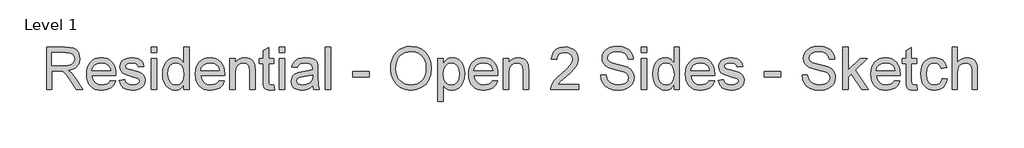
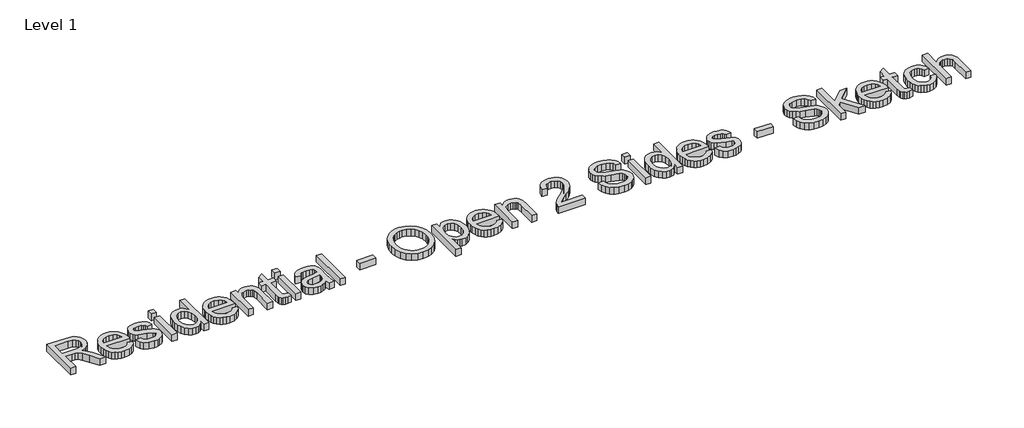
# One storey, part 22 of 26: 1 proxy.
"""IFC4 building model written with IfcOpenShell, lengths in millimetres."""

from ifc_helpers import new_model, si_unit, origin, origin_with_axes, place, context, project, spatial, polyline, outline, extrude, element, save

model = new_model("IFC4")

# Units and contexts
model_context = context("Model", 3, world=origin())
ifc_project = project(units=[si_unit("LENGTHUNIT", "METRE", prefix="MILLI")], contexts=[model_context])

# Site, building, storey
site = spatial("IfcSite", under=ifc_project)
building = spatial("IfcBuilding", under=site)
storey = spatial("IfcBuildingStorey", under=building, Name="Level 1", Elevation=0.0)

# Proxy
placement = place(None, origin())
element("IfcBuildingElementProxy", 1, Name="12\" Arial", ObjectType="12\" Arial", at=placement, inside=storey, context=model_context, shape_type="SweptSolid", body=[
    extrude(outline(polyline([(-4715.4981187, 3380.8767877), (-4715.4981187, 3680.987557), (-4586.1779264, 3680.987557), (-4551.420835, 3678.9634945), (-4526.1337918, 3672.891307), (-4507.6516283, 3661.6811146), (-4493.3091764, 3644.2430377), (-4484.1047293, 3622.619456), (-4481.0365802, 3598.8527493), (-4486.1196331, 3569.2886146), (-4501.3687918, 3544.780057), (-4512.9201439, 3534.7925449), (-4527.2419889, 3526.8107781), (-4564.1971571, 3516.86448), (-4542.875811, 3500.8185185), (-4512.4690802, 3462.2056339), (-4462.4261956, 3380.8767877), (-4506.0213879, 3380.8767877), (-4545.0738879, 3443.0823646), (-4573.2825418, 3484.2596723), (-4593.1018687, 3503.7126531), (-4610.9429264, 3510.8564031), (-4632.7038879, 3512.1752493), (-4677.9842725, 3512.1752493), (-4677.9842725, 3380.8767877), (-4715.4981187, 3380.8767877)]), holes=[polyline([(-4677.9842725, 3549.6890954), (-4594.0177341, 3549.6890954), (-4569.9029985, 3551.0171002), (-4551.1918687, 3555.0011146), (-4537.1058591, 3561.9067396), (-4526.8664841, 3571.9995762), (-4520.6294408, 3584.2080618), (-4518.5504264, 3597.4606339), (-4522.5161235, 3615.7596243), (-4534.4132148, 3630.505057), (-4554.8828062, 3640.2315473), (-4584.5660033, 3643.4737108), (-4677.9842725, 3643.4737108), (-4677.9842725, 3549.6890954)])]), origin_with_axes(), (0.0, 0.0, 1.0), 50.8),
    extrude(outline(polyline([(-4265.7715802, 3446.5260185), (-4228.9904264, 3441.8367877), (-4242.2429985, 3414.1227012), (-4263.3903302, 3393.4058262), (-4291.9561716, 3380.4921243), (-4327.4642725, 3376.187557), (-4350.7409913, 3378.044474), (-4371.4807629, 3383.6152252), (-4389.6835874, 3392.8998106), (-4405.3494648, 3405.89823), (-4417.9471932, 3422.2487168), (-4426.9455706, 3441.5895041), (-4432.344597, 3463.9205918), (-4434.1442725, 3489.24198), (-4432.3262797, 3515.4219921), (-4426.8723014, 3538.4972204), (-4417.7823374, 3558.4676651), (-4405.0563879, 3575.3333262), (-4389.4317244, 3588.7324368), (-4371.6456187, 3598.30323), (-4351.6980706, 3604.045706), (-4329.5890802, 3605.9598646), (-4308.1921752, 3604.0502853), (-4288.8422293, 3598.3215473), (-4271.5392425, 3588.7736507), (-4256.2832148, 3575.4065954), (-4243.8297353, 3558.577569), (-4234.9343927, 3538.6437589), (-4229.5971872, 3515.6051651), (-4227.8181187, 3489.4617877), (-4228.0379264, 3479.3506339), (-4396.6304264, 3479.3506339), (-4390.1369408, 3451.2702012), (-4375.0526379, 3430.6265954), (-4353.2825177, 3417.9327012), (-4326.7315802, 3413.7014031), (-4306.7657148, 3415.661355), (-4289.9504264, 3421.5412108), (-4276.2857148, 3431.7073166), (-4265.7715802, 3446.5260185)]), holes=[polyline([(-4396.6304264, 3516.86448), (-4265.3319648, 3516.86448), (-4270.4058591, 3536.683807), (-4280.3521571, 3550.8614031), (-4302.2230225, 3564.0498646), (-4329.7356187, 3568.4460185), (-4355.0226619, 3564.9382541), (-4375.9318687, 3554.4149608), (-4390.4666523, 3538.0118118), (-4396.6304264, 3516.86448)])]), origin_with_axes(), (0.0, 0.0, 1.0), 50.8),
    extrude(outline(polyline([(-4204.3719648, 3446.5260185), (-4166.8581187, 3451.2152493), (-4160.9416283, 3435.1692877), (-4149.493311, 3423.3729416), (-4132.4398975, 3416.1192877), (-4109.7081187, 3413.7014031), (-4087.2510994, 3415.9177973), (-4071.4615802, 3422.56698), (-4062.1197533, 3432.2018839), (-4059.005811, 3443.3754416), (-4062.1380706, 3452.9370762), (-4071.5348494, 3460.2273646), (-4110.1477341, 3470.9246723), (-4166.638311, 3489.2786146), (-4180.9349696, 3498.5013791), (-4191.2934071, 3510.7098646), (-4197.5854023, 3525.1255858), (-4199.6827341, 3540.970057), (-4197.9975418, 3555.5048406), (-4192.9419648, 3568.9222685), (-4184.973936, 3580.6911387), (-4174.5513879, 3590.2802493), (-4150.7022533, 3601.3805377), (-4118.4271571, 3605.9598646), (-4094.010186, 3604.1189752), (-4072.7804264, 3598.596307), (-4055.7086956, 3589.9322204), (-4043.765811, 3578.6670762), (-4035.8527341, 3563.9674368), (-4030.8704264, 3544.9998646), (-4068.3842725, 3540.3106339), (-4073.1192966, 3552.1161387), (-4082.4885994, 3561.0091916), (-4096.5837677, 3566.5868118), (-4115.4963879, 3568.4460185), (-4137.0375418, 3566.6692396), (-4151.398311, 3561.3389031), (-4159.4762437, 3553.6456339), (-4162.1688879, 3544.780057), (-4157.6994648, 3533.8629416), (-4143.7050418, 3525.5835185), (-4111.393311, 3517.5971723), (-4056.3314841, 3499.9392877), (-4041.7875418, 3491.4950089), (-4030.7605225, 3479.9367877), (-4023.8091043, 3465.2279896), (-4021.4919648, 3447.33198), (-4024.212085, 3428.8314993), (-4032.3724456, 3411.430057), (-4045.6616523, 3396.4922925), (-4063.768311, 3385.3828454), (-4085.6391764, 3378.4863791), (-4110.2210033, 3376.187557), (-4148.0462437, 3380.6203454), (-4175.6504264, 3393.9187108), (-4194.0776379, 3415.9361146), (-4204.3719648, 3446.5260185)])), origin_with_axes(), (0.0, 0.0, 1.0), 50.8),
    extrude(outline(polyline([(-3979.2888879, 3380.8767877), (-3979.2888879, 3601.2706339), (-3941.7750418, 3601.2706339), (-3941.7750418, 3380.8767877), (-3979.2888879, 3380.8767877)])), origin_with_axes(), (0.0, 0.0, 1.0), 50.8),
    extrude(outline(polyline([(-3979.2888879, 3643.4737108), (-3979.2888879, 3680.987557), (-3941.7750418, 3680.987557), (-3941.7750418, 3643.4737108), (-3979.2888879, 3643.4737108)])), origin_with_axes(), (0.0, 0.0, 1.0), 50.8),
    extrude(outline(polyline([(-3749.5165802, 3380.8767877), (-3749.5165802, 3416.2658262), (-3760.7405105, 3398.7315834), (-3774.3365321, 3386.2071243), (-3790.3046451, 3378.6924488), (-3808.6448494, 3376.187557), (-3832.8969648, 3379.8143839), (-3855.0975418, 3390.6948646), (-3873.8910994, 3408.068831), (-3887.9221571, 3431.1761146), (-3896.6595129, 3459.0825329), (-3899.5719648, 3490.8539031), (-3896.8884793, 3522.2314512), (-3888.8380225, 3550.5683262), (-3875.4297533, 3574.252605), (-3856.6728302, 3591.6723646), (-3833.9868446, 3602.3879896), (-3808.7913879, 3605.9598646), (-3790.4374456, 3603.4046002), (-3774.208311, 3595.738807), (-3760.4520129, 3583.9882541), (-3749.5165802, 3569.1787108), (-3749.5165802, 3680.987557), (-3712.0027341, 3680.987557), (-3712.0027341, 3380.8767877), (-3749.5165802, 3380.8767877)]), holes=[polyline([(-3862.0581187, 3491.0004416), (-3857.8268206, 3457.0676291), (-3845.1329264, 3432.9345762), (-3826.6873975, 3418.5096964), (-3805.2011956, 3413.7014031), (-3783.7241523, 3418.2898887), (-3765.7457148, 3432.0553454), (-3753.5738639, 3455.2542156), (-3749.5165802, 3488.1429416), (-3753.6471331, 3524.0998166), (-3766.0387918, 3549.0296723), (-3784.4751619, 3563.591932), (-3806.7398494, 3568.4460185), (-3828.4458591, 3563.7842637), (-3846.2319648, 3549.7989993), (-3858.1015802, 3525.7758502), (-3862.0581187, 3491.0004416)])]), origin_with_axes(), (0.0, 0.0, 1.0), 50.8),
    extrude(outline(polyline([(-3501.4269648, 3446.5260185), (-3464.645811, 3441.8367877), (-3477.8983831, 3414.1227012), (-3499.0457148, 3393.4058262), (-3527.6115562, 3380.4921243), (-3563.1196571, 3376.187557), (-3586.3963759, 3378.044474), (-3607.1361475, 3383.6152252), (-3625.338972, 3392.8998106), (-3641.0048494, 3405.89823), (-3653.6025778, 3422.2487168), (-3662.6009552, 3441.5895041), (-3667.9999817, 3463.9205918), (-3669.7996571, 3489.24198), (-3667.9816643, 3515.4219921), (-3662.527686, 3538.4972204), (-3653.437722, 3558.4676651), (-3640.7117725, 3575.3333262), (-3625.0871091, 3588.7324368), (-3607.3010033, 3598.30323), (-3587.3534552, 3604.045706), (-3565.2444648, 3605.9598646), (-3543.8475598, 3604.0502853), (-3524.4976139, 3598.3215473), (-3507.1946271, 3588.7736507), (-3491.9385994, 3575.4065954), (-3479.4851199, 3558.577569), (-3470.5897773, 3538.6437589), (-3465.2525718, 3515.6051651), (-3463.4735033, 3489.4617877), (-3463.693311, 3479.3506339), (-3632.285811, 3479.3506339), (-3625.7923254, 3451.2702012), (-3610.7080225, 3430.6265954), (-3588.9379023, 3417.9327012), (-3562.3869648, 3413.7014031), (-3542.4210994, 3415.661355), (-3525.605811, 3421.5412108), (-3511.9410994, 3431.7073166), (-3501.4269648, 3446.5260185)]), holes=[polyline([(-3632.285811, 3516.86448), (-3500.9873494, 3516.86448), (-3506.0612437, 3536.683807), (-3516.0075418, 3550.8614031), (-3537.8784071, 3564.0498646), (-3565.3910033, 3568.4460185), (-3590.6780466, 3564.9382541), (-3611.5872533, 3554.4149608), (-3626.1220369, 3538.0118118), (-3632.285811, 3516.86448)])]), origin_with_axes(), (0.0, 0.0, 1.0), 50.8),
    extrude(outline(polyline([(-3425.9596571, 3380.8767877), (-3425.9596571, 3601.2706339), (-3388.445811, 3601.2706339), (-3388.445811, 3570.497557), (-3375.4130466, 3586.0123166), (-3359.7609071, 3597.0942877), (-3341.4893927, 3603.7434704), (-3320.5985033, 3605.9598646), (-3302.1071812, 3604.1739271), (-3285.1728302, 3598.8161146), (-3271.050186, 3590.5550089), (-3260.9939841, 3580.0591916), (-3249.7471571, 3552.4733262), (-3247.7688879, 3516.205057), (-3247.7688879, 3380.8767877), (-3285.2827341, 3380.8767877), (-3285.2827341, 3511.14948), (-3289.6056187, 3544.3404416), (-3295.5862196, 3554.2226291), (-3304.8822533, 3561.8884223), (-3316.7976619, 3566.8066195), (-3330.6363879, 3568.4460185), (-3352.6079985, 3564.7642396), (-3371.3374456, 3553.7189031), (-3378.8223555, 3544.7022084), (-3384.1687196, 3532.3792396), (-3388.445811, 3497.81448), (-3388.445811, 3380.8767877), (-3425.9596571, 3380.8767877)])), origin_with_axes(), (0.0, 0.0, 1.0), 50.8),
    extrude(outline(polyline([(-3116.4704264, 3412.1627493), (-3111.7811956, 3379.7777493), (-3139.843311, 3376.187557), (-3157.8492244, 3377.7445281), (-3171.275811, 3382.4154416), (-3180.7641764, 3389.6141435), (-3186.9554264, 3398.75448), (-3190.3624456, 3414.4524127), (-3191.4981187, 3441.3239031), (-3191.4981187, 3563.7567877), (-3219.6335033, 3563.7567877), (-3219.6335033, 3601.2706339), (-3191.4981187, 3601.2706339), (-3191.4981187, 3654.8304416), (-3153.9842725, 3676.88448), (-3153.9842725, 3601.2706339), (-3116.4704264, 3601.2706339), (-3116.4704264, 3563.7567877), (-3153.9842725, 3563.7567877), (-3153.9842725, 3442.4229416), (-3152.0060033, 3423.0798646), (-3145.5949456, 3416.2291916), (-3132.8094648, 3413.7014031), (-3116.4704264, 3412.1627493)])), origin_with_axes(), (0.0, 0.0, 1.0), 50.8),
    extrude(outline(polyline([(-3078.9565802, 3380.8767877), (-3078.9565802, 3601.2706339), (-3041.4427341, 3601.2706339), (-3041.4427341, 3380.8767877), (-3078.9565802, 3380.8767877)])), origin_with_axes(), (0.0, 0.0, 1.0), 50.8),
    extrude(outline(polyline([(-3078.9565802, 3643.4737108), (-3078.9565802, 3680.987557), (-3041.4427341, 3680.987557), (-3041.4427341, 3643.4737108), (-3078.9565802, 3643.4737108)])), origin_with_axes(), (0.0, 0.0, 1.0), 50.8),
    extrude(outline(polyline([(-2844.4950418, 3409.0121723), (-2862.4185273, 3393.6439512), (-2880.8732148, 3383.5877493), (-2900.2804023, 3378.037605), (-2921.0613879, 3376.187557), (-2952.41146, 3380.6386627), (-2975.537061, 3393.99198), (-2989.797085, 3414.2692396), (-2994.5504264, 3439.4921723), (-2992.7553302, 3455.0435666), (-2987.3700418, 3469.1662108), (-2979.0631427, 3481.2556339), (-2968.5032148, 3490.7073646), (-2942.2361956, 3503.0165954), (-2909.7779264, 3508.6583262), (-2871.4214841, 3514.5931339), (-2844.7148494, 3521.5537108), (-2844.4950418, 3529.9064031), (-2847.0777821, 3546.6484223), (-2854.8260033, 3557.6021723), (-2872.1541764, 3565.735057), (-2896.2963879, 3568.4460185), (-2918.6435033, 3566.6417637), (-2934.2498494, 3561.2289993), (-2944.8922052, 3551.2185906), (-2952.3473494, 3535.6214031), (-2989.8611956, 3540.3106339), (-2983.3493927, 3560.8260185), (-2973.632061, 3576.9452493), (-2959.8024937, 3589.2727973), (-2940.9539841, 3598.4131339), (-2917.9016523, 3604.073182), (-2891.4606187, 3605.9598646), (-2866.1003062, 3604.2929896), (-2845.997061, 3599.2923646), (-2830.8394889, 3591.7731098), (-2820.3161956, 3582.5503454), (-2813.3373014, 3571.1478214), (-2808.8129264, 3557.0892877), (-2806.9811956, 3524.2646723), (-2806.9811956, 3477.5921723), (-2805.0761956, 3412.4191916), (-2797.6027341, 3380.8767877), (-2835.1165802, 3380.8767877), (-2844.4950418, 3409.0121723)]), holes=[polyline([(-2844.4950418, 3484.0398646), (-2905.0154264, 3472.5365954), (-2937.2905225, 3466.4552493), (-2951.9077341, 3456.5639031), (-2957.0365802, 3442.1298646), (-2954.2431908, 3430.9746243), (-2945.8630225, 3421.8342877), (-2932.0792485, 3415.7346243), (-2913.0750418, 3413.7014031), (-2892.9260033, 3415.9452733), (-2875.1215802, 3422.6768839), (-2860.6875418, 3432.595706), (-2850.6496571, 3444.4012108), (-2846.1985514, 3456.5639031), (-2844.7148494, 3473.4158262), (-2844.4950418, 3484.0398646)])]), origin_with_axes(), (0.0, 0.0, 1.0), 50.8),
    extrude(outline(polyline([(-2755.3996571, 3380.8767877), (-2755.3996571, 3680.987557), (-2717.885811, 3680.987557), (-2717.885811, 3380.8767877), (-2755.3996571, 3380.8767877)])), origin_with_axes(), (0.0, 0.0, 1.0), 50.8),
    extrude(outline(polyline([(-2563.1411956, 3469.9721723), (-2563.1411956, 3507.4860185), (-2445.9104264, 3507.4860185), (-2445.9104264, 3469.9721723), (-2563.1411956, 3469.9721723)])), origin_with_axes(), (0.0, 0.0, 1.0), 50.8),
    extrude(outline(polyline([(-2295.8550418, 3526.9756339), (-2293.3547293, 3562.1769199), (-2285.8537918, 3593.3392396), (-2273.3522293, 3620.462593), (-2255.8500418, 3643.54698), (-2234.3958951, 3661.9787709), (-2210.0384552, 3675.1443358), (-2182.777722, 3683.0436747), (-2152.6136956, 3685.6767877), (-2113.2498014, 3680.7311146), (-2077.9523494, 3665.8940954), (-2048.6446571, 3642.2098166), (-2027.2500418, 3610.7223646), (-2014.1714841, 3572.9520762), (-2009.8119648, 3530.4192877), (-2014.4004504, 3487.3186627), (-2028.1659071, 3449.0171723), (-2050.3481668, 3417.4747685), (-2080.187061, 3394.6514031), (-2115.1822773, 3380.8035185), (-2152.8335033, 3376.187557), (-2192.8018687, 3381.2889271), (-2228.300811, 3396.5930377), (-2257.5352341, 3420.716932), (-2278.7100418, 3452.2776531), (-2291.5687918, 3488.5917156), (-2295.8550418, 3526.9756339)]), holes=[polyline([(-2258.3411956, 3526.6092877), (-2256.4659612, 3501.7389632), (-2250.8402581, 3479.6620281), (-2241.4640862, 3460.3784824), (-2228.3374456, 3443.8883262), (-2212.3807809, 3430.6815473), (-2194.5145369, 3421.2481339), (-2174.7387136, 3415.5880858), (-2153.053311, 3413.7014031), (-2130.9969829, 3415.6064031), (-2110.9876139, 3421.3214031), (-2093.025204, 3430.8464031), (-2077.1097533, 3444.1814031), (-2064.0792785, 3461.0195882), (-2054.7717966, 3481.0541435), (-2049.1873074, 3504.285069), (-2047.325811, 3530.7123646), (-2050.5130225, 3563.9216435), (-2060.0746571, 3592.6248646), (-2075.7634312, 3616.0984945), (-2097.332061, 3633.6189993), (-2123.3517966, 3644.526956), (-2152.3938879, 3648.1629416), (-2173.3259913, 3646.411349), (-2192.7469168, 3641.1565714), (-2210.6566643, 3632.3986086), (-2227.0552341, 3620.1374608), (-2240.7428422, 3603.7823947), (-2250.5197052, 3582.7426771), (-2256.385823, 3557.0183082), (-2258.3411956, 3526.6092877)])]), origin_with_axes(), (0.0, 0.0, 1.0), 50.8),
    extrude(outline(polyline([(-1962.9196571, 3296.4706339), (-1962.9196571, 3601.2706339), (-1925.405811, 3601.2706339), (-1925.405811, 3564.48948), (-1913.1698494, 3582.6327733), (-1899.4685033, 3595.5922685), (-1883.495811, 3603.3679656), (-1864.445811, 3605.9598646), (-1839.0763398, 3602.3330377), (-1816.8940802, 3591.452557), (-1798.8332148, 3573.9778454), (-1785.8279264, 3550.5683262), (-1777.9698014, 3522.9275089), (-1775.3504264, 3492.7589031), (-1778.3086716, 3460.6761387), (-1787.1834071, 3431.9820762), (-1801.6907148, 3408.1329416), (-1821.5466764, 3390.5849608), (-1844.6722773, 3379.7869079), (-1868.9885033, 3376.187557), (-1886.2342485, 3378.5962829), (-1901.6299456, 3385.8224608), (-1914.8092485, 3396.7304175), (-1925.405811, 3410.18448), (-1925.405811, 3296.4706339), (-1962.9196571, 3296.4706339)]), holes=[polyline([(-1925.405811, 3489.3152493), (-1921.3485273, 3455.6846723), (-1909.1766764, 3432.1652493), (-1891.2165562, 3418.3173646), (-1869.7944648, 3413.7014031), (-1848.0243446, 3418.4822204), (-1829.6062918, 3432.8246723), (-1817.0497773, 3457.2050089), (-1812.8642725, 3492.09948), (-1816.9490321, 3525.5468839), (-1829.203311, 3549.3960185), (-1847.1359552, 3563.6835185), (-1868.255811, 3568.4460185), (-1889.4580946, 3563.3812829), (-1908.0776379, 3548.1870762), (-1921.0737677, 3523.3396483), (-1925.405811, 3489.3152493)])]), origin_with_axes(), (0.0, 0.0, 1.0), 50.8),
    extrude(outline(polyline([(-1578.8423494, 3446.5260185), (-1542.0611956, 3441.8367877), (-1555.3137677, 3414.1227012), (-1576.4610994, 3393.4058262), (-1605.0269408, 3380.4921243), (-1640.5350418, 3376.187557), (-1663.8117605, 3378.044474), (-1684.5515321, 3383.6152252), (-1702.7543567, 3392.8998106), (-1718.4202341, 3405.89823), (-1731.0179624, 3422.2487168), (-1740.0163398, 3441.5895041), (-1745.4153663, 3463.9205918), (-1747.2150418, 3489.24198), (-1745.397049, 3515.4219921), (-1739.9430706, 3538.4972204), (-1730.8531067, 3558.4676651), (-1718.1271571, 3575.3333262), (-1702.5024937, 3588.7324368), (-1684.7163879, 3598.30323), (-1664.7688398, 3604.045706), (-1642.6598494, 3605.9598646), (-1621.2629444, 3604.0502853), (-1601.9129985, 3598.3215473), (-1584.6100117, 3588.7736507), (-1569.3539841, 3575.4065954), (-1556.9005045, 3558.577569), (-1548.0051619, 3538.6437589), (-1542.6679564, 3515.6051651), (-1540.8888879, 3489.4617877), (-1541.1086956, 3479.3506339), (-1709.7011956, 3479.3506339), (-1703.20771, 3451.2702012), (-1688.1234071, 3430.6265954), (-1666.3532869, 3417.9327012), (-1639.8023494, 3413.7014031), (-1619.8364841, 3415.661355), (-1603.0211956, 3421.5412108), (-1589.3564841, 3431.7073166), (-1578.8423494, 3446.5260185)]), holes=[polyline([(-1709.7011956, 3516.86448), (-1578.4027341, 3516.86448), (-1583.4766283, 3536.683807), (-1593.4229264, 3550.8614031), (-1615.2937918, 3564.0498646), (-1642.8063879, 3568.4460185), (-1668.0934312, 3564.9382541), (-1689.0026379, 3554.4149608), (-1703.5374216, 3538.0118118), (-1709.7011956, 3516.86448)])]), origin_with_axes(), (0.0, 0.0, 1.0), 50.8),
    extrude(outline(polyline([(-1503.3750418, 3380.8767877), (-1503.3750418, 3601.2706339), (-1465.8611956, 3601.2706339), (-1465.8611956, 3570.497557), (-1452.8284312, 3586.0123166), (-1437.1762918, 3597.0942877), (-1418.9047773, 3603.7434704), (-1398.0138879, 3605.9598646), (-1379.5225658, 3604.1739271), (-1362.5882148, 3598.8161146), (-1348.4655706, 3590.5550089), (-1338.4093687, 3580.0591916), (-1327.1625418, 3552.4733262), (-1325.1842725, 3516.205057), (-1325.1842725, 3380.8767877), (-1362.6981187, 3380.8767877), (-1362.6981187, 3511.14948), (-1367.0210033, 3544.3404416), (-1373.0016043, 3554.2226291), (-1382.2976379, 3561.8884223), (-1394.2130466, 3566.8066195), (-1408.0517725, 3568.4460185), (-1430.0233831, 3564.7642396), (-1448.7528302, 3553.7189031), (-1456.2377401, 3544.7022084), (-1461.5841043, 3532.3792396), (-1465.8611956, 3497.81448), (-1465.8611956, 3380.8767877), (-1503.3750418, 3380.8767877)])), origin_with_axes(), (0.0, 0.0, 1.0), 50.8),
    extrude(outline(polyline([(-973.4919648, 3418.3906339), (-973.4919648, 3380.8767877), (-1170.4396571, 3380.8767877), (-1166.4098494, 3406.7408262), (-1157.1596091, 3426.9539752), (-1143.6231187, 3446.5626531), (-1124.0419168, 3467.0871964), (-1096.6575418, 3490.0479416), (-1056.1762918, 3526.0048166), (-1031.8875418, 3552.5465954), (-1019.7431668, 3574.0877493), (-1015.6950418, 3595.0427493), (-1019.5142004, 3613.8271483), (-1030.9716764, 3629.4426531), (-1048.5837677, 3639.9659464), (-1070.8667725, 3643.4737108), (-1094.2671331, 3640.0483743), (-1112.447061, 3629.7723646), (-1124.1792966, 3613.4516435), (-1128.2365802, 3591.8921723), (-1165.7504264, 3596.5814031), (-1156.6558831, 3632.8679896), (-1148.145204, 3647.3432421), (-1136.9922533, 3659.3731339), (-1123.4534732, 3668.829444), (-1107.7853062, 3675.5839512), (-1070.060811, 3680.987557), (-1049.9552761, 3679.4855377), (-1032.0615562, 3674.97948), (-1016.3796511, 3667.4693839), (-1002.909561, 3656.9552493), (-992.0909011, 3644.2155618), (-984.3632869, 3630.028807), (-979.7267184, 3614.3949848), (-978.1811956, 3597.3140954), (-979.8480706, 3579.3722925), (-984.8486956, 3561.7418839), (-993.7234312, 3543.8092396), (-1007.0126379, 3524.96073), (-1028.1966043, 3502.4579175), (-1060.7556187, 3473.5623646), (-1103.9111956, 3437.4772685), (-1120.8363879, 3418.3906339), (-973.4919648, 3418.3906339)])), origin_with_axes(), (0.0, 0.0, 1.0), 50.8),
    extrude(outline(polyline([(-818.7473494, 3484.0398646), (-781.2335033, 3484.0398646), (-776.928936, 3463.2222445), (-769.1440802, 3446.4893839), (-756.9997052, 3433.2093358), (-739.6165802, 3422.7501531), (-718.3685033, 3415.9635906), (-694.6292725, 3413.7014031), (-673.7292244, 3415.4140714), (-655.4302341, 3420.5520762), (-640.6023735, 3428.6849608), (-630.1157148, 3439.3822685), (-623.8786716, 3451.6640233), (-621.7996571, 3464.5502493), (-623.3566283, 3477.1067637), (-628.0275418, 3487.9597685), (-637.5159071, 3497.2191675), (-653.5252341, 3504.9948646), (-708.1474456, 3519.3189993), (-744.0035754, 3528.798206), (-766.9460033, 3537.81948), (-785.6204985, 3550.440105), (-798.8547533, 3565.735057), (-806.7403543, 3583.3746243), (-809.3688879, 3603.0290954), (-806.1175658, 3625.000706), (-796.3635994, 3645.4886146), (-780.3634312, 3662.8534223), (-758.3735033, 3675.45573), (-731.9782629, 3683.1215233), (-702.7621571, 3685.6767877), (-671.1098494, 3683.0024608), (-643.4140802, 3674.97948), (-620.6639841, 3661.7727012), (-603.8486956, 3643.54698), (-593.2063398, 3621.4379896), (-588.9750418, 3596.5814031), (-626.4888879, 3596.5814031), (-633.3761956, 3618.9651531), (-647.7369648, 3635.1210185), (-670.1756668, 3644.9024608), (-701.2967725, 3648.1629416), (-733.1505706, 3644.9390954), (-755.0031187, 3635.267557), (-767.642061, 3621.0350089), (-771.8550418, 3604.1281339), (-768.8693206, 3589.7124127), (-759.9121571, 3578.117557), (-738.7373494, 3567.7499608), (-698.6590802, 3557.162557), (-657.2985994, 3547.106355), (-632.2771571, 3538.3323646), (-610.8917004, 3524.722605), (-595.9722533, 3507.9256339), (-587.2074216, 3488.1246243), (-584.285811, 3465.5027493), (-587.6470369, 3442.3771483), (-597.7307148, 3420.6253454), (-614.1247052, 3401.905057), (-636.4168687, 3387.8739993), (-663.2242485, 3379.1091675), (-693.1638879, 3376.187557), (-729.9175658, 3379.3381339), (-760.1685994, 3388.7898646), (-784.2650177, 3404.5793839), (-802.5548494, 3426.7433262), (-814.2962437, 3453.7430377), (-818.7473494, 3484.0398646)])), origin_with_axes(), (0.0, 0.0, 1.0), 50.8),
    extrude(outline(polyline([(-532.7042725, 3380.8767877), (-532.7042725, 3601.2706339), (-495.1904264, 3601.2706339), (-495.1904264, 3380.8767877), (-532.7042725, 3380.8767877)])), origin_with_axes(), (0.0, 0.0, 1.0), 50.8),
    extrude(outline(polyline([(-532.7042725, 3643.4737108), (-532.7042725, 3680.987557), (-495.1904264, 3680.987557), (-495.1904264, 3643.4737108), (-532.7042725, 3643.4737108)])), origin_with_axes(), (0.0, 0.0, 1.0), 50.8),
    extrude(outline(polyline([(-302.9319648, 3380.8767877), (-302.9319648, 3416.2658262), (-314.1558951, 3398.7315834), (-327.7519168, 3386.2071243), (-343.7200297, 3378.6924488), (-362.0602341, 3376.187557), (-386.3123494, 3379.8143839), (-408.5129264, 3390.6948646), (-427.3064841, 3408.068831), (-441.3375418, 3431.1761146), (-450.0748975, 3459.0825329), (-452.9873494, 3490.8539031), (-450.3038639, 3522.2314512), (-442.2534071, 3550.5683262), (-428.8451379, 3574.252605), (-410.0882148, 3591.6723646), (-387.4022293, 3602.3879896), (-362.2067725, 3605.9598646), (-343.8528302, 3603.4046002), (-327.6236956, 3595.738807), (-313.8673975, 3583.9882541), (-302.9319648, 3569.1787108), (-302.9319648, 3680.987557), (-265.4181187, 3680.987557), (-265.4181187, 3380.8767877), (-302.9319648, 3380.8767877)]), holes=[polyline([(-415.4735033, 3491.0004416), (-411.2422052, 3457.0676291), (-398.548311, 3432.9345762), (-380.1027821, 3418.5096964), (-358.6165802, 3413.7014031), (-337.1395369, 3418.2898887), (-319.1610994, 3432.0553454), (-306.9892485, 3455.2542156), (-302.9319648, 3488.1429416), (-307.0625177, 3524.0998166), (-319.4541764, 3549.0296723), (-337.8905466, 3563.591932), (-360.1552341, 3568.4460185), (-381.8612437, 3563.7842637), (-399.6473494, 3549.7989993), (-411.5169648, 3525.7758502), (-415.4735033, 3491.0004416)])]), origin_with_axes(), (0.0, 0.0, 1.0), 50.8),
    extrude(outline(polyline([(-54.8423494, 3446.5260185), (-18.0611956, 3441.8367877), (-31.3137677, 3414.1227012), (-52.4610994, 3393.4058262), (-81.0269408, 3380.4921243), (-116.5350418, 3376.187557), (-139.8117605, 3378.044474), (-160.5515321, 3383.6152252), (-178.7543567, 3392.8998106), (-194.4202341, 3405.89823), (-207.0179624, 3422.2487168), (-216.0163398, 3441.5895041), (-221.4153663, 3463.9205918), (-223.2150418, 3489.24198), (-221.397049, 3515.4219921), (-215.9430706, 3538.4972204), (-206.8531067, 3558.4676651), (-194.1271571, 3575.3333262), (-178.5024937, 3588.7324368), (-160.7163879, 3598.30323), (-140.7688398, 3604.045706), (-118.6598494, 3605.9598646), (-97.2629444, 3604.0502853), (-77.9129985, 3598.3215473), (-60.6100117, 3588.7736507), (-45.3539841, 3575.4065954), (-32.9005045, 3558.577569), (-24.0051619, 3538.6437589), (-18.6679564, 3515.6051651), (-16.8888879, 3489.4617877), (-17.1086956, 3479.3506339), (-185.7011956, 3479.3506339), (-179.20771, 3451.2702012), (-164.1234071, 3430.6265954), (-142.3532869, 3417.9327012), (-115.8023494, 3413.7014031), (-95.8364841, 3415.661355), (-79.0211956, 3421.5412108), (-65.3564841, 3431.7073166), (-54.8423494, 3446.5260185)]), holes=[polyline([(-185.7011956, 3516.86448), (-54.4027341, 3516.86448), (-59.4766283, 3536.683807), (-69.4229264, 3550.8614031), (-91.2937918, 3564.0498646), (-118.8063879, 3568.4460185), (-144.0934312, 3564.9382541), (-165.0026379, 3554.4149608), (-179.5374216, 3538.0118118), (-185.7011956, 3516.86448)])]), origin_with_axes(), (0.0, 0.0, 1.0), 50.8),
    extrude(outline(polyline([(6.5572659, 3446.5260185), (44.0711121, 3451.2152493), (49.9876025, 3435.1692877), (61.4359198, 3423.3729416), (78.4893332, 3416.1192877), (101.2211121, 3413.7014031), (123.6781313, 3415.9177973), (139.4676506, 3422.56698), (148.8094775, 3432.2018839), (151.9234198, 3443.3754416), (148.7911602, 3452.9370762), (139.3943813, 3460.2273646), (100.7814967, 3470.9246723), (44.2909198, 3489.2786146), (29.9942611, 3498.5013791), (19.6358236, 3510.7098646), (13.3438284, 3525.1255858), (11.2464967, 3540.970057), (12.931689, 3555.5048406), (17.9872659, 3568.9222685), (25.9552948, 3580.6911387), (36.3778429, 3590.2802493), (60.2269775, 3601.3805377), (92.5020736, 3605.9598646), (116.9190448, 3604.1189752), (138.1488044, 3598.596307), (155.2205352, 3589.9322204), (167.1634198, 3578.6670762), (175.0764967, 3563.9674368), (180.0588044, 3544.9998646), (142.5449582, 3540.3106339), (137.8099342, 3552.1161387), (128.4406313, 3561.0091916), (114.3454631, 3566.5868118), (95.4328429, 3568.4460185), (73.891689, 3566.6692396), (59.5309198, 3561.3389031), (51.4529871, 3553.6456339), (48.7603429, 3544.780057), (53.2297659, 3533.8629416), (67.224189, 3525.5835185), (99.5359198, 3517.5971723), (154.5977467, 3499.9392877), (169.141689, 3491.4950089), (180.1687082, 3479.9367877), (187.1201265, 3465.2279896), (189.4372659, 3447.33198), (186.7171457, 3428.8314993), (178.5567852, 3411.430057), (165.2675784, 3396.4922925), (147.1609198, 3385.3828454), (125.2900544, 3378.4863791), (100.7082275, 3376.187557), (62.8829871, 3380.6203454), (35.2788044, 3393.9187108), (16.8515929, 3415.9361146), (6.5572659, 3446.5260185)])), origin_with_axes(), (0.0, 0.0, 1.0), 50.8),
    extrude(outline(polyline([(330.114189, 3469.9721723), (330.114189, 3507.4860185), (447.3449582, 3507.4860185), (447.3449582, 3469.9721723), (330.114189, 3469.9721723)])), origin_with_axes(), (0.0, 0.0, 1.0), 50.8),
    extrude(outline(polyline([(597.4003429, 3484.0398646), (634.914189, 3484.0398646), (639.2187563, 3463.2222445), (647.0036121, 3446.4893839), (659.1479871, 3433.2093358), (676.5311121, 3422.7501531), (697.779189, 3415.9635906), (721.5184198, 3413.7014031), (742.4184679, 3415.4140714), (760.7174582, 3420.5520762), (775.5453188, 3428.6849608), (786.0319775, 3439.3822685), (792.2690207, 3451.6640233), (794.3480352, 3464.5502493), (792.791064, 3477.1067637), (788.1201506, 3487.9597685), (778.6317852, 3497.2191675), (762.6224582, 3504.9948646), (708.0002467, 3519.3189993), (672.1441169, 3528.798206), (649.201689, 3537.81948), (630.5271938, 3550.440105), (617.292939, 3565.735057), (609.4073381, 3583.3746243), (606.7788044, 3603.0290954), (610.0301265, 3625.000706), (619.7840929, 3645.4886146), (635.7842611, 3662.8534223), (657.774189, 3675.45573), (684.1694294, 3683.1215233), (713.3855352, 3685.6767877), (745.0378429, 3683.0024608), (772.7336121, 3674.97948), (795.4837082, 3661.7727012), (812.2989967, 3643.54698), (822.9413525, 3621.4379896), (827.1726506, 3596.5814031), (789.6588044, 3596.5814031), (782.7714967, 3618.9651531), (768.4107275, 3635.1210185), (745.9720256, 3644.9024608), (714.8509198, 3648.1629416), (682.9971217, 3644.9390954), (661.1445736, 3635.267557), (648.5056313, 3621.0350089), (644.2926506, 3604.1281339), (647.2783717, 3589.7124127), (656.2355352, 3578.117557), (677.4103429, 3567.7499608), (717.4886121, 3557.162557), (758.8490929, 3547.106355), (783.8705352, 3538.3323646), (805.2559919, 3524.722605), (820.175439, 3507.9256339), (828.9402707, 3488.1246243), (831.8618813, 3465.5027493), (828.5006554, 3442.3771483), (818.4169775, 3420.6253454), (802.0229871, 3401.905057), (779.7308236, 3387.8739993), (752.9234438, 3379.1091675), (722.9838044, 3376.187557), (686.2301265, 3379.3381339), (655.9790929, 3388.7898646), (631.8826746, 3404.5793839), (613.5928429, 3426.7433262), (601.8514486, 3453.7430377), (597.4003429, 3484.0398646)])), origin_with_axes(), (0.0, 0.0, 1.0), 50.8),
    extrude(outline(polyline([(883.4434198, 3380.8767877), (883.4434198, 3680.987557), (920.9572659, 3680.987557), (920.9572659, 3519.72198), (1005.0703429, 3601.2706339), (1056.9449582, 3601.2706339), (971.8061121, 3518.6962108), (1061.634189, 3380.8767877), (1017.819189, 3380.8767877), (944.9163044, 3492.6123646), (920.9572659, 3469.3860185), (920.9572659, 3380.8767877), (883.4434198, 3380.8767877)])), origin_with_axes(), (0.0, 0.0, 1.0), 50.8),
    extrude(outline(polyline([(1248.7638044, 3446.5260185), (1285.5449582, 3441.8367877), (1272.2923861, 3414.1227012), (1251.1450544, 3393.4058262), (1222.5792131, 3380.4921243), (1187.0711121, 3376.187557), (1163.7943933, 3378.044474), (1143.0546217, 3383.6152252), (1124.8517972, 3392.8998106), (1109.1859198, 3405.89823), (1096.5881914, 3422.2487168), (1087.589814, 3441.5895041), (1082.1907876, 3463.9205918), (1080.3911121, 3489.24198), (1082.2091049, 3515.4219921), (1087.6630832, 3538.4972204), (1096.7530472, 3558.4676651), (1109.4789967, 3575.3333262), (1125.1036602, 3588.7324368), (1142.8897659, 3598.30323), (1162.837314, 3604.045706), (1184.9463044, 3605.9598646), (1206.3432095, 3604.0502853), (1225.6931554, 3598.3215473), (1242.9961421, 3588.7736507), (1258.2521698, 3575.4065954), (1270.7056494, 3558.577569), (1279.6009919, 3538.6437589), (1284.9381974, 3515.6051651), (1286.7172659, 3489.4617877), (1286.4974582, 3479.3506339), (1117.9049582, 3479.3506339), (1124.3984438, 3451.2702012), (1139.4827467, 3430.6265954), (1161.2528669, 3417.9327012), (1187.8038044, 3413.7014031), (1207.7696698, 3415.661355), (1224.5849582, 3421.5412108), (1238.2496698, 3431.7073166), (1248.7638044, 3446.5260185)]), holes=[polyline([(1117.9049582, 3516.86448), (1249.2034198, 3516.86448), (1244.1295256, 3536.683807), (1234.1832275, 3550.8614031), (1212.3123621, 3564.0498646), (1184.7997659, 3568.4460185), (1159.5127227, 3564.9382541), (1138.6035159, 3554.4149608), (1124.0687323, 3538.0118118), (1117.9049582, 3516.86448)])]), origin_with_axes(), (0.0, 0.0, 1.0), 50.8),
    extrude(outline(polyline([(1403.9480352, 3412.1627493), (1408.6372659, 3379.7777493), (1380.5751506, 3376.187557), (1362.5692371, 3377.7445281), (1349.1426506, 3382.4154416), (1339.6542852, 3389.6141435), (1333.4630352, 3398.75448), (1330.0560159, 3414.4524127), (1328.9203429, 3441.3239031), (1328.9203429, 3563.7567877), (1300.7849582, 3563.7567877), (1300.7849582, 3601.2706339), (1328.9203429, 3601.2706339), (1328.9203429, 3654.8304416), (1366.434189, 3676.88448), (1366.434189, 3601.2706339), (1403.9480352, 3601.2706339), (1403.9480352, 3563.7567877), (1366.434189, 3563.7567877), (1366.434189, 3442.4229416), (1368.4124582, 3423.0798646), (1374.8235159, 3416.2291916), (1387.6089967, 3413.7014031), (1403.9480352, 3412.1627493)])), origin_with_axes(), (0.0, 0.0, 1.0), 50.8),
    extrude(outline(polyline([(1582.1388044, 3460.5937108), (1619.6526506, 3455.90448), (1609.1934679, 3422.5395041), (1589.5389967, 3397.32573), (1562.5392852, 3381.4721002), (1530.0443813, 3376.187557), (1509.0046638, 3378.030736), (1490.1401265, 3383.5602733), (1473.4507695, 3392.7761687), (1458.9365929, 3405.6784223), (1447.1883296, 3422.0243298), (1438.7967131, 3441.5711868), (1433.7617431, 3464.3189933), (1432.0834198, 3490.2677493), (1434.9500784, 3523.6510425), (1443.5500544, 3552.58323), (1458.0207275, 3575.946956), (1478.4994775, 3592.6248646), (1502.9988765, 3602.6261146), (1529.5314967, 3605.9598646), (1561.2295977, 3601.3805377), (1586.5715929, 3587.642557), (1604.7515207, 3565.4786146), (1614.9634198, 3535.6214031), (1577.4495736, 3530.9321723), (1570.6446938, 3547.2986868), (1560.0481313, 3559.0309223), (1546.24604, 3566.0922445), (1529.8245736, 3568.4460185), (1505.5816169, 3563.8117396), (1486.3392852, 3549.9089031), (1473.7827707, 3525.9864993), (1469.5972659, 3491.2935185), (1473.6911842, 3456.1334464), (1485.972939, 3432.1286146), (1504.8672419, 3418.308206), (1528.7988044, 3413.7014031), (1548.2243092, 3416.5772204), (1564.1512082, 3425.2046723), (1575.7369054, 3439.8035666), (1582.1388044, 3460.5937108)])), origin_with_axes(), (0.0, 0.0, 1.0), 50.8),
    extrude(outline(polyline([(1652.4772659, 3380.8767877), (1652.4772659, 3680.987557), (1689.9911121, 3680.987557), (1689.9911121, 3570.6440954), (1703.7703068, 3586.0947445), (1719.2438525, 3597.1309223), (1736.4117491, 3603.7526291), (1755.2739967, 3605.9598646), (1777.9325063, 3603.5511387), (1797.4038044, 3596.3249608), (1812.7353909, 3584.8491675), (1822.9747659, 3569.6915954), (1828.7447179, 3548.8648166), (1830.6680352, 3520.3814031), (1830.6680352, 3380.8767877), (1793.154189, 3380.8767877), (1793.154189, 3516.4981339), (1790.1684679, 3539.9809223), (1781.2113044, 3556.0635185), (1766.7772659, 3565.3503935), (1747.3609198, 3568.4460185), (1731.50729, 3566.3578454), (1716.6244775, 3560.0933262), (1704.2969294, 3550.256932), (1696.1090929, 3537.4531339), (1691.5206073, 3520.436355), (1689.9911121, 3497.9610185), (1689.9911121, 3380.8767877), (1652.4772659, 3380.8767877)])), origin_with_axes(), (0.0, 0.0, 1.0), 50.8),
])

save(model, "model.ifc")
